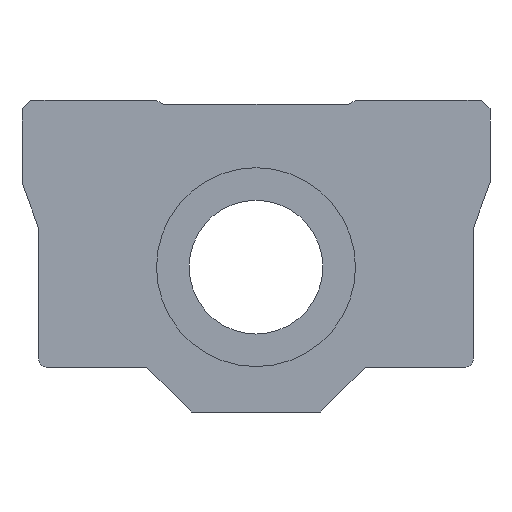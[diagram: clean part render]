
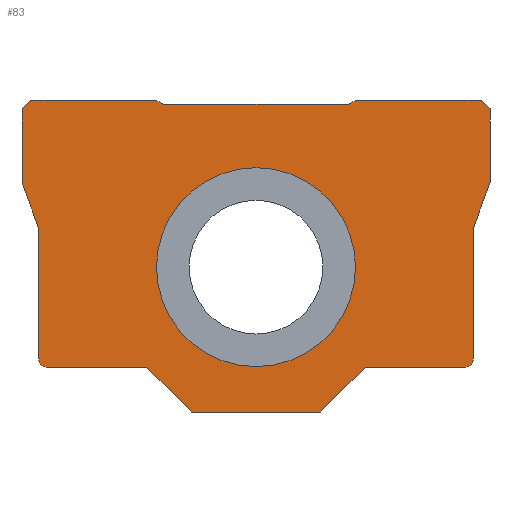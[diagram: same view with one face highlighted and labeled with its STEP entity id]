
A CAD part, left-side view. The second image highlights one B-rep face of the part: STEP entity #83.
In plain terms, the highlighted planar face has unit normal (-1, 0, 0).
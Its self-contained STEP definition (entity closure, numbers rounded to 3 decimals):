
#83 = ADVANCED_FACE( '', ( #196, #197 ), #198, .F. );
#196 = FACE_BOUND( '', #347, .T. );
#197 = FACE_OUTER_BOUND( '', #348, .T. );
#198 = PLANE( '', #349 );
#347 = EDGE_LOOP( '', ( #524 ) );
#348 = EDGE_LOOP( '', ( #525, #526, #527, #528, #529, #530, #531, #532, #533, #534, #535, #536, #537, #538, #539, #540, #541, #542, #543, #544 ) );
#349 = AXIS2_PLACEMENT_3D( '', #545, #546, #547 );
#524 = ORIENTED_EDGE( '', *, *, #804, .T. );
#525 = ORIENTED_EDGE( '', *, *, #812, .F. );
#526 = ORIENTED_EDGE( '', *, *, #795, .F. );
#527 = ORIENTED_EDGE( '', *, *, #813, .F. );
#528 = ORIENTED_EDGE( '', *, *, #814, .F. );
#529 = ORIENTED_EDGE( '', *, *, #815, .F. );
#530 = ORIENTED_EDGE( '', *, *, #816, .F. );
#531 = ORIENTED_EDGE( '', *, *, #817, .F. );
#532 = ORIENTED_EDGE( '', *, *, #818, .F. );
#533 = ORIENTED_EDGE( '', *, *, #819, .F. );
#534 = ORIENTED_EDGE( '', *, *, #784, .F. );
#535 = ORIENTED_EDGE( '', *, *, #809, .F. );
#536 = ORIENTED_EDGE( '', *, *, #820, .T. );
#537 = ORIENTED_EDGE( '', *, *, #821, .T. );
#538 = ORIENTED_EDGE( '', *, *, #822, .T. );
#539 = ORIENTED_EDGE( '', *, *, #823, .F. );
#540 = ORIENTED_EDGE( '', *, *, #824, .F. );
#541 = ORIENTED_EDGE( '', *, *, #825, .F. );
#542 = ORIENTED_EDGE( '', *, *, #826, .F. );
#543 = ORIENTED_EDGE( '', *, *, #779, .F. );
#544 = ORIENTED_EDGE( '', *, *, #827, .F. );
#545 = CARTESIAN_POINT( '', ( 0., 0., 0. ) );
#546 = DIRECTION( '', ( 1., 0., 0. ) );
#547 = DIRECTION( '', ( 0., 1., 0. ) );
#779 = EDGE_CURVE( '', #903, #905, #906, .T. );
#784 = EDGE_CURVE( '', #912, #914, #915, .T. );
#795 = EDGE_CURVE( '', #931, #933, #934, .T. );
#804 = EDGE_CURVE( '', #947, #947, #948, .T. );
#809 = EDGE_CURVE( '', #955, #912, #957, .T. );
#812 = EDGE_CURVE( '', #933, #960, #961, .T. );
#813 = EDGE_CURVE( '', #962, #931, #963, .T. );
#814 = EDGE_CURVE( '', #964, #962, #965, .T. );
#815 = EDGE_CURVE( '', #966, #964, #967, .T. );
#816 = EDGE_CURVE( '', #968, #966, #969, .T. );
#817 = EDGE_CURVE( '', #970, #968, #971, .T. );
#818 = EDGE_CURVE( '', #972, #970, #973, .T. );
#819 = EDGE_CURVE( '', #914, #972, #974, .T. );
#820 = EDGE_CURVE( '', #955, #975, #976, .T. );
#821 = EDGE_CURVE( '', #975, #977, #978, .T. );
#822 = EDGE_CURVE( '', #977, #979, #980, .T. );
#823 = EDGE_CURVE( '', #981, #979, #982, .T. );
#824 = EDGE_CURVE( '', #983, #981, #984, .T. );
#825 = EDGE_CURVE( '', #985, #983, #986, .T. );
#826 = EDGE_CURVE( '', #905, #985, #987, .T. );
#827 = EDGE_CURVE( '', #960, #903, #988, .T. );
#903 = VERTEX_POINT( '', #1087 );
#905 = VERTEX_POINT( '', #1090 );
#906 = LINE( '', #1091, #1092 );
#912 = VERTEX_POINT( '', #1100 );
#914 = VERTEX_POINT( '', #1103 );
#915 = LINE( '', #1104, #1105 );
#931 = VERTEX_POINT( '', #1123 );
#933 = VERTEX_POINT( '', #1126 );
#934 = LINE( '', #1127, #1128 );
#947 = VERTEX_POINT( '', #1142 );
#948 = CIRCLE( '', #1143, 8.925 );
#955 = VERTEX_POINT( '', #1150 );
#957 = LINE( '', #1153, #1154 );
#960 = VERTEX_POINT( '', #1158 );
#961 = LINE( '', #1159, #1160 );
#962 = VERTEX_POINT( '', #1161 );
#963 = LINE( '', #1162, #1163 );
#964 = VERTEX_POINT( '', #1164 );
#965 = LINE( '', #1165, #1166 );
#966 = VERTEX_POINT( '', #1167 );
#967 = LINE( '', #1168, #1169 );
#968 = VERTEX_POINT( '', #1170 );
#969 = CIRCLE( '', #1171, 0.8 );
#970 = VERTEX_POINT( '', #1172 );
#971 = LINE( '', #1173, #1174 );
#972 = VERTEX_POINT( '', #1175 );
#973 = LINE( '', #1176, #1177 );
#974 = LINE( '', #1178, #1179 );
#975 = VERTEX_POINT( '', #1180 );
#976 = LINE( '', #1181, #1182 );
#977 = VERTEX_POINT( '', #1183 );
#978 = LINE( '', #1184, #1185 );
#979 = VERTEX_POINT( '', #1186 );
#980 = LINE( '', #1187, #1188 );
#981 = VERTEX_POINT( '', #1189 );
#982 = LINE( '', #1190, #1191 );
#983 = VERTEX_POINT( '', #1192 );
#984 = LINE( '', #1193, #1194 );
#985 = VERTEX_POINT( '', #1195 );
#986 = LINE( '', #1196, #1197 );
#987 = LINE( '', #1198, #1199 );
#988 = CIRCLE( '', #1200, 0.8 );
#1087 = CARTESIAN_POINT( '', ( 0., 19.5, -8.2 ) );
#1090 = CARTESIAN_POINT( '', ( 0., 19.5, 3.479 ) );
#1091 = CARTESIAN_POINT( '', ( 0., 19.5, -9.2 ) );
#1092 = VECTOR( '', #1324, 1000. );
#1100 = CARTESIAN_POINT( '', ( 0., -20.2, 15. ) );
#1103 = CARTESIAN_POINT( '', ( 0., -21., 14.2 ) );
#1104 = CARTESIAN_POINT( '', ( 0., -20.2, 15. ) );
#1105 = VECTOR( '', #1328, 1000. );
#1123 = CARTESIAN_POINT( '', ( 0., 5.798, -13. ) );
#1126 = CARTESIAN_POINT( '', ( 0., 9.798, -9. ) );
#1127 = CARTESIAN_POINT( '', ( 0., 5.798, -13. ) );
#1128 = VECTOR( '', #1344, 1000. );
#1142 = CARTESIAN_POINT( '', ( 0., 8.925, 0. ) );
#1143 = AXIS2_PLACEMENT_3D( '', #1358, #1359, #1360 );
#1150 = CARTESIAN_POINT( '', ( 0., -9., 15. ) );
#1153 = CARTESIAN_POINT( '', ( 0., 20.2, 15. ) );
#1154 = VECTOR( '', #1368, 1000. );
#1158 = CARTESIAN_POINT( '', ( 0., 18.7, -9. ) );
#1159 = CARTESIAN_POINT( '', ( 0., 9.798, -9. ) );
#1160 = VECTOR( '', #1370, 1000. );
#1161 = CARTESIAN_POINT( '', ( 0., -5.798, -13. ) );
#1162 = CARTESIAN_POINT( '', ( 0., -5.798, -13. ) );
#1163 = VECTOR( '', #1371, 1000. );
#1164 = CARTESIAN_POINT( '', ( 0., -9.798, -9. ) );
#1165 = CARTESIAN_POINT( '', ( 0., -9.798, -9. ) );
#1166 = VECTOR( '', #1372, 1000. );
#1167 = CARTESIAN_POINT( '', ( 0., -18.7, -9. ) );
#1168 = CARTESIAN_POINT( '', ( 0., -18.7, -9. ) );
#1169 = VECTOR( '', #1373, 1000. );
#1170 = CARTESIAN_POINT( '', ( 0., -19.5, -8.2 ) );
#1171 = AXIS2_PLACEMENT_3D( '', #1374, #1375, #1376 );
#1172 = CARTESIAN_POINT( '', ( 0., -19.5, 3.479 ) );
#1173 = CARTESIAN_POINT( '', ( 0., -19.5, 2.879 ) );
#1174 = VECTOR( '', #1377, 1000. );
#1175 = CARTESIAN_POINT( '', ( 0., -21., 7.6 ) );
#1176 = CARTESIAN_POINT( '', ( 0., -21., 7.6 ) );
#1177 = VECTOR( '', #1378, 1000. );
#1178 = CARTESIAN_POINT( '', ( 0., -21., 14.2 ) );
#1179 = VECTOR( '', #1379, 1000. );
#1180 = CARTESIAN_POINT( '', ( 0., -8.3, 14.6 ) );
#1181 = CARTESIAN_POINT( '', ( 0., -2.027, 11.015 ) );
#1182 = VECTOR( '', #1380, 1000. );
#1183 = CARTESIAN_POINT( '', ( 0., 8.3, 14.6 ) );
#1184 = CARTESIAN_POINT( '', ( 0., 4.15, 14.6 ) );
#1185 = VECTOR( '', #1381, 1000. );
#1186 = CARTESIAN_POINT( '', ( 0., 9., 15. ) );
#1187 = CARTESIAN_POINT( '', ( 0., 2.377, 11.215 ) );
#1188 = VECTOR( '', #1382, 1000. );
#1189 = CARTESIAN_POINT( '', ( 0., 20.2, 15. ) );
#1190 = CARTESIAN_POINT( '', ( 0., 20.2, 15. ) );
#1191 = VECTOR( '', #1383, 1000. );
#1192 = CARTESIAN_POINT( '', ( 0., 21., 14.2 ) );
#1193 = CARTESIAN_POINT( '', ( 0., 21., 14.2 ) );
#1194 = VECTOR( '', #1384, 1000. );
#1195 = CARTESIAN_POINT( '', ( 0., 21., 7.6 ) );
#1196 = CARTESIAN_POINT( '', ( 0., 21., 7. ) );
#1197 = VECTOR( '', #1385, 1000. );
#1198 = CARTESIAN_POINT( '', ( 0., 19.5, 3.479 ) );
#1199 = VECTOR( '', #1386, 1000. );
#1200 = AXIS2_PLACEMENT_3D( '', #1387, #1388, #1389 );
#1324 = DIRECTION( '', ( 0., 0., 1. ) );
#1328 = DIRECTION( '', ( 0., -0.707, -0.707 ) );
#1344 = DIRECTION( '', ( 0., 0.707, 0.707 ) );
#1358 = CARTESIAN_POINT( '', ( 0., 0., 0. ) );
#1359 = DIRECTION( '', ( 1., 0., 0. ) );
#1360 = DIRECTION( '', ( 0., 1., 0. ) );
#1368 = DIRECTION( '', ( 0., -1., 0. ) );
#1370 = DIRECTION( '', ( 0., 1., 0. ) );
#1371 = DIRECTION( '', ( 0., 1., 0. ) );
#1372 = DIRECTION( '', ( 0., 0.707, -0.707 ) );
#1373 = DIRECTION( '', ( 0., 1., 0. ) );
#1374 = CARTESIAN_POINT( '', ( 0., -18.7, -8.2 ) );
#1375 = DIRECTION( '', ( 1., 0., 0. ) );
#1376 = DIRECTION( '', ( 0., -1., 0. ) );
#1377 = DIRECTION( '', ( 0., 0., -1. ) );
#1378 = DIRECTION( '', ( 0., 0.342, -0.94 ) );
#1379 = DIRECTION( '', ( 0., 0., -1. ) );
#1380 = DIRECTION( '', ( 0., 0.868, -0.496 ) );
#1381 = DIRECTION( '', ( 0., 1., 0. ) );
#1382 = DIRECTION( '', ( 0., 0.868, 0.496 ) );
#1383 = DIRECTION( '', ( 0., -1., 0. ) );
#1384 = DIRECTION( '', ( 0., -0.707, 0.707 ) );
#1385 = DIRECTION( '', ( 0., 0., 1. ) );
#1386 = DIRECTION( '', ( 0., 0.342, 0.94 ) );
#1387 = CARTESIAN_POINT( '', ( 0., 18.7, -8.2 ) );
#1388 = DIRECTION( '', ( 1., 0., 0. ) );
#1389 = DIRECTION( '', ( 0., 0., -1. ) );
